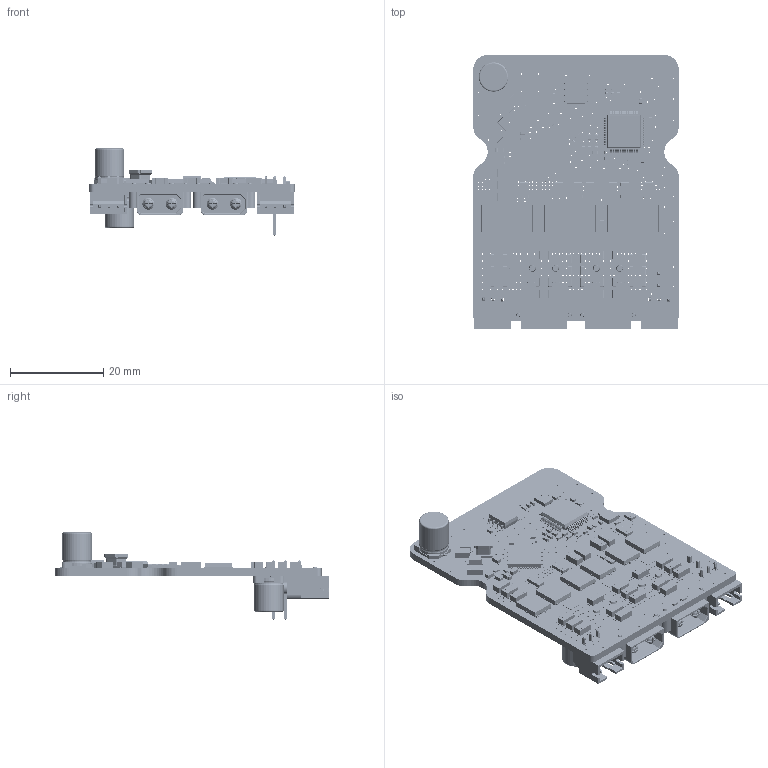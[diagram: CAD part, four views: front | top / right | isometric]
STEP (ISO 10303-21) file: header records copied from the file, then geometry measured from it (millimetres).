
FILE_DESCRIPTION(/* description */ (''),/* implementation_level */ '2;1');
FILE_NAME(/* name */ 'KRC_FOC_v2_6_board.step',/* time_stamp */ '2026-11-11T20:25:11+09:00',/* author */ (''),/* organization */ (''),/* preprocessor_version */ 'ST-DEVELOPER v20.2',/* originating_system */ 'Autodesk Translation Framework v15.17.0.0',/* authorisation */ '');
FILE_SCHEMA (('AUTOMOTIVE_DESIGN { 1 0 10303 214 3 1 1 }'));
Products named in the file (148): 2026-11-11-20-25-02-620; 2026-11-11-20-25-02-622; 2026-11-11-20-25-02-651; 2026-11-11-20-25-02-736; 2026-11-11-20-25-02-755; 2026-11-11-20-25-02-758; 2026-11-11-20-25-02-762; 2026-11-11-20-25-02-763; 2026-11-11-20-25-02-763_1; 2026-11-11-20-25-02-763_2; 2026-11-11-20-25-02-763_3; 2026-11-11-20-25-02-763_4; 2026-11-11-20-25-02-764; 2026-11-11-20-25-02-764_1; 2026-11-11-20-25-02-764_2; 2026-11-11-20-25-02-765; 2026-11-11-20-25-02-765_1; 2026-11-11-20-25-02-766; 2026-11-11-20-25-02-766_1; 2026-11-11-20-25-02-766_2; 2026-11-11-20-25-02-767; 2026-11-11-20-25-02-767_1; 2026-11-11-20-25-02-768; 2026-11-11-20-25-02-768_1; 2026-11-11-20-25-02-768_2; 2026-11-11-20-25-02-769; 2026-11-11-20-25-02-769_1; 2026-11-11-20-25-02-769_2; 2026-11-11-20-25-02-770; 2026-11-11-20-25-02-770_1; 2026-11-11-20-25-02-770_2; 2026-11-11-20-25-02-771; 2026-11-11-20-25-02-771_1; 2026-11-11-20-25-02-771_2; 2026-11-11-20-25-02-772; 2026-11-11-20-25-02-772_1; 2026-11-11-20-25-02-772_2; 2026-11-11-20-25-02-773; 2026-11-11-20-25-02-773_1; 2026-11-11-20-25-02-774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
Assembly tree (147 placements, depth 6):
  2026-11-11-20-25-02-620
    2026-11-11-20-25-02-622
    2026-11-11-20-25-02-651
    2026-11-11-20-25-02-736
    2026-11-11-20-25-02-755
    2026-11-11-20-25-02-758
    2026-11-11-20-25-02-762
      2026-11-11-20-25-02-763
      2026-11-11-20-25-02-763_1
      2026-11-11-20-25-02-763_2
      2026-11-11-20-25-02-763_3
      2026-11-11-20-25-02-763_4
      2026-11-11-20-25-02-764
      2026-11-11-20-25-02-764_1
      2026-11-11-20-25-02-764_2
      2026-11-11-20-25-02-765
      2026-11-11-20-25-02-765_1
      2026-11-11-20-25-02-766
      2026-11-11-20-25-02-766_1
      2026-11-11-20-25-02-766_2
      2026-11-11-20-25-02-767
      2026-11-11-20-25-02-767_1
      2026-11-11-20-25-02-768
      2026-11-11-20-25-02-768_1
      2026-11-11-20-25-02-768_2
      2026-11-11-20-25-02-769
      2026-11-11-20-25-02-769_1
      2026-11-11-20-25-02-769_2
      2026-11-11-20-25-02-770
      2026-11-11-20-25-02-770_1
      2026-11-11-20-25-02-770_2
      2026-11-11-20-25-02-771
      2026-11-11-20-25-02-771_1
      2026-11-11-20-25-02-771_2
      2026-11-11-20-25-02-772
      2026-11-11-20-25-02-772_1
      2026-11-11-20-25-02-772_2
      2026-11-11-20-25-02-773
      2026-11-11-20-25-02-773_1
      2026-11-11-20-25-02-774
      2026-11-11-20-25-02-774_1
      2026-11-11-20-25-02-774_2
      2026-11-11-20-25-02-775
      2026-11-11-20-25-02-775_1
      2026-11-11-20-25-02-775_2
      2026-11-11-20-25-02-776
      2026-11-11-20-25-02-776_1
      2026-11-11-20-25-02-777
      2026-11-11-20-25-02-777_1
      2026-11-11-20-25-02-778
      2026-11-11-20-25-02-779
      2026-11-11-20-25-02-779_1
      2026-11-11-20-25-02-780
      2026-11-11-20-25-02-781
      2026-11-11-20-25-02-781_1
      2026-11-11-20-25-02-782
      2026-11-11-20-25-02-782_1
      2026-11-11-20-25-02-782_2
      2026-11-11-20-25-02-783
      2026-11-11-20-25-02-783_1
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Bounding box: 43.95 x 58.58 x 18.64 mm (x, y, z)
Volume: 6152.1 mm3; surface area: 32990.3 mm2
Topology: 1420 solids, 1420 shells, 23348 faces, 57382 edges, 37022 vertices
Faces by surface type: plane 14463, cylinder 7665, sphere 1092, bspline 52, torus 48, cone 28
Full cylindrical faces by diameter (mm): 0.28 x1965, 0.288 x1, 0.346 x2, 0.35 x2380, 0.39 x2, 0.4 x2, 0.421 x12, 0.65 x4, 0.73 x30, 0.8 x24, 0.85 x4, 0.9 x8, 0.93 x20, 0.946 x10, 1 x16, 1.016 x8, 1.43 x15, 1.5 x16, 1.63 x20, 1.7 x16, 2 x8, 2.5 x8, 6.3 x4
Entity records: 707027 total; most frequent: CARTESIAN_POINT 122493, DIRECTION 119956, ORIENTED_EDGE 114756, EDGE_CURVE 57378, LINE 41798, VECTOR 41798, AXIS2_PLACEMENT_3D 39079, VERTEX_POINT 37022
